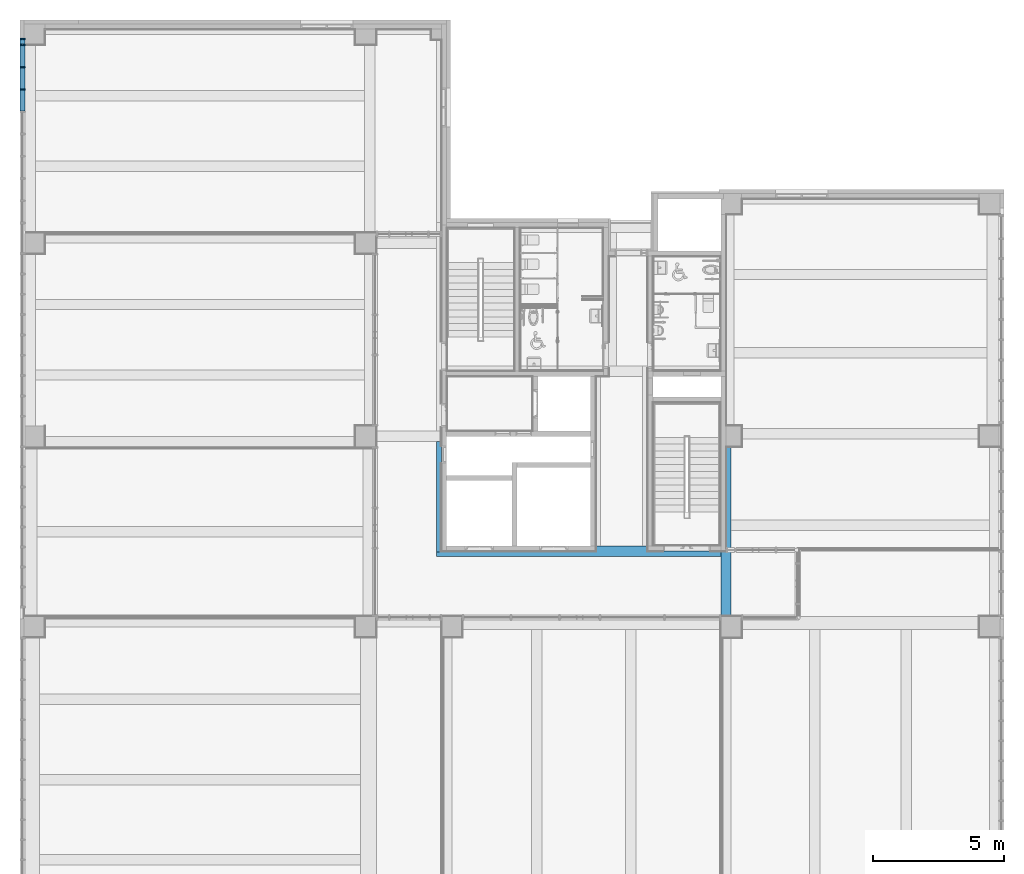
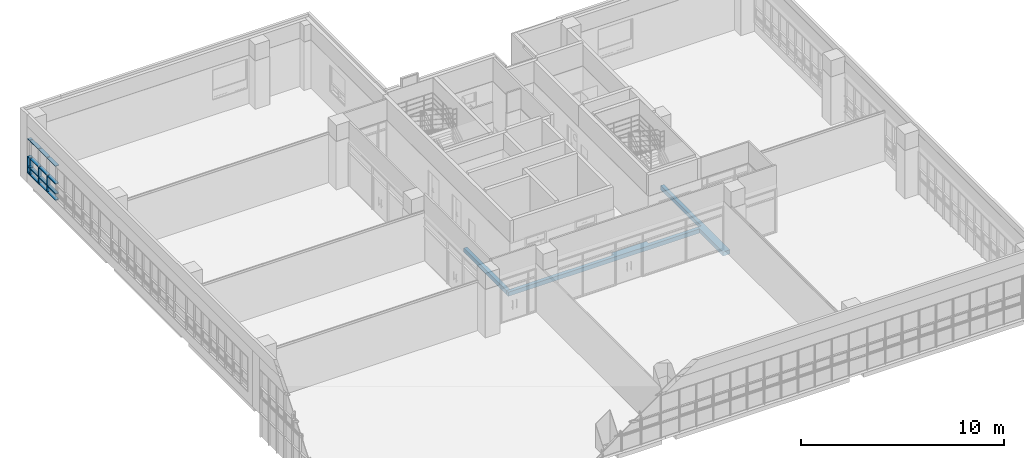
# One storey, part 23 of 81: 24 members, 3 beams, 1 element without a shape of its own.
"""IFC2X3 building model written with IfcOpenShell, lengths in millimetres."""

from ifc_helpers import new_model, entity, si_unit, converted_unit, derived_unit, direction, frame, origin, origin_2d_with_axis, place, context, subcontext, project, spatial, rectangle, extrude, faceted_brep, source, transform, mapped, material, material_list, type_object, type_shapes, element, aggregate, save


model = new_model("IFC2X3")

# Units and contexts
model_context = context("Model", 3, precision=0.01, world=origin(), true_north=direction((6.123031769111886e-17, 1.0)))
body_context = subcontext(model_context, "Body", "Model", "MODEL_VIEW")
ifc_project = project(units=[si_unit("LENGTHUNIT", "METRE", prefix="MILLI"), si_unit("AREAUNIT", "SQUARE_METRE"), si_unit("VOLUMEUNIT", "CUBIC_METRE"), converted_unit("PLANEANGLEUNIT", "DEGREE", entity("IfcRatioMeasure", 0.017453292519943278), si_unit("PLANEANGLEUNIT", "RADIAN"), dimensions=[0, 0, 0, 0, 0, 0, 0]), si_unit("MASSUNIT", "GRAM", prefix="KILO"), derived_unit("MASSDENSITYUNIT", [(si_unit("MASSUNIT", "GRAM", prefix="KILO"), 1), (si_unit("LENGTHUNIT", "METRE"), -3)]), derived_unit("MOMENTOFINERTIAUNIT", [(si_unit("LENGTHUNIT", "METRE"), 4)]), si_unit("TIMEUNIT", "SECOND"), si_unit("FREQUENCYUNIT", "HERTZ"), si_unit("THERMODYNAMICTEMPERATUREUNIT", "DEGREE_CELSIUS"), derived_unit("THERMALTRANSMITTANCEUNIT", [(si_unit("MASSUNIT", "GRAM", prefix="KILO"), 1), (si_unit("THERMODYNAMICTEMPERATUREUNIT", "KELVIN"), -1), (si_unit("TIMEUNIT", "SECOND"), -3)]), derived_unit("VOLUMETRICFLOWRATEUNIT", [(si_unit("LENGTHUNIT", "METRE"), 3), (si_unit("TIMEUNIT", "SECOND"), -1)]), derived_unit("MASSFLOWRATEUNIT", [(si_unit("MASSUNIT", "GRAM", prefix="KILO"), 1), (si_unit("TIMEUNIT", "SECOND"), -1)]), derived_unit("ROTATIONALFREQUENCYUNIT", [(si_unit("TIMEUNIT", "SECOND"), -1)]), si_unit("ELECTRICCURRENTUNIT", "AMPERE"), si_unit("ELECTRICVOLTAGEUNIT", "VOLT"), si_unit("POWERUNIT", "WATT"), si_unit("FORCEUNIT", "NEWTON", prefix="KILO"), si_unit("ILLUMINANCEUNIT", "LUX"), si_unit("LUMINOUSFLUXUNIT", "LUMEN"), si_unit("LUMINOUSINTENSITYUNIT", "CANDELA"), derived_unit("USERDEFINED", [(si_unit("MASSUNIT", "GRAM", prefix="KILO"), -1), (si_unit("LENGTHUNIT", "METRE"), -2), (si_unit("TIMEUNIT", "SECOND"), 3), (si_unit("LUMINOUSFLUXUNIT", "LUMEN"), 1)]), derived_unit("SOUNDPOWERUNIT", [(si_unit("MASSUNIT", "GRAM", prefix="KILO"), 1), (si_unit("LENGTHUNIT", "METRE"), 2), (si_unit("TIMEUNIT", "SECOND"), -3)]), derived_unit("SOUNDPRESSUREUNIT", [(si_unit("MASSUNIT", "GRAM", prefix="KILO"), 1), (si_unit("LENGTHUNIT", "METRE"), -1), (si_unit("TIMEUNIT", "SECOND"), -2)]), derived_unit("LINEARVELOCITYUNIT", [(si_unit("LENGTHUNIT", "METRE"), 1), (si_unit("TIMEUNIT", "SECOND"), -1)]), si_unit("PRESSUREUNIT", "PASCAL"), derived_unit("USERDEFINED", [(si_unit("LENGTHUNIT", "METRE"), -2), (si_unit("MASSUNIT", "GRAM", prefix="KILO"), 1), (si_unit("TIMEUNIT", "SECOND"), -2)]), derived_unit("LINEARFORCEUNIT", [(si_unit("MASSUNIT", "GRAM", prefix="KILO"), 1), (si_unit("LENGTHUNIT", "METRE"), 1), (si_unit("TIMEUNIT", "SECOND"), -2), (si_unit("LENGTHUNIT", "METRE"), -1)]), derived_unit("PLANARFORCEUNIT", [(si_unit("MASSUNIT", "GRAM", prefix="KILO"), 1), (si_unit("LENGTHUNIT", "METRE"), 1), (si_unit("TIMEUNIT", "SECOND"), -2), (si_unit("LENGTHUNIT", "METRE"), -2)])], contexts=[model_context])

# Site, building, storey
site_placement = place(None, frame((-14167.972527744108, -657.2125860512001, 0.0)))
site = spatial("IfcSite", under=ifc_project, at=site_placement, Name="Default", CompositionType="ELEMENT")
building_placement = place(site_placement, origin())
building = spatial("IfcBuilding", under=site, at=building_placement, Name="Sample Building", CompositionType="ELEMENT")
storey_placement = place(building_placement, frame((0.0, 0.0, 13400.0)))
storey = spatial("IfcBuildingStorey", under=building, at=storey_placement, Name="지상 4층", CompositionType="ELEMENT", Elevation=13400.00000000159)

# Curtain wall, members
curtain_wall_type = type_object("IfcCurtainWallType", Name="커튼월:CW112-스테인리스 스틸 커튼월", PredefinedType="NOTDEFINED")
curtain_wall_placement = place(storey_placement, frame((0.0, 0.0, -13400.0)))
curtain_wall = element("IfcCurtainWall", 1, at=curtain_wall_placement, inside=storey, type_object=curtain_wall_type, Name="커튼월:CW112-스테인리스 스틸 커튼월", ObjectType="커튼월:CW112-스테인리스 스틸 커튼월")
ifc_material_1 = material(Name="<Unnamed>")
member_type_1 = type_object("IfcMemberType", Name="직사각형 멀리언:CW200-직사각형 멀리언 50x200mm", PredefinedType="MULLION", material=ifc_material_1)
shared_shape_1 = source(origin(), body_context, "Body", "SweptSolid", [
    extrude(rectangle(XDim=200.0, YDim=50.0, at=origin_2d_with_axis()), frame((-25.0, 0.0, -600.0), z_axis=(0.0, 0.0, 1.0), x_axis=(0.0, -1.0, 0.0)), (0.0, 0.0, 1.0), 600.0),
])
type_shapes(member_type_1, [shared_shape_1])
member_1_placement = place(curtain_wall_placement, frame((14018.570555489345, 35207.21229514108, 15000.0), z_axis=(0.0, 0.0, 1.0), x_axis=(0.0, 1.0, 0.0)))
member_1 = element("IfcMember", 2, at=member_1_placement, type_object=member_type_1, material=ifc_material_1, Name="직사각형 멀리언:CW200-직사각형 멀리언 50x200mm", ObjectType="직사각형 멀리언:CW200-직사각형 멀리언 50x200mm", context=body_context, shape_type="MappedRepresentation", body=[
    mapped(shared_shape_1, transform((0.0, 0.0, 0.0), scale=1.0)),
])
member_type_2 = type_object("IfcMemberType", Name="직사각형 멀리언:CW200-직사각형 멀리언 50x200mm", PredefinedType="MULLION", material=ifc_material_1)
shared_shape_2 = source(origin(), body_context, "Body", "SweptSolid", [
    extrude(rectangle(XDim=200.0, YDim=50.0, at=origin_2d_with_axis()), frame((0.0, 0.0, -600.0), z_axis=(0.0, 0.0, 1.0), x_axis=(0.0, -1.0, 0.0)), (0.0, 0.0, 1.0), 600.0),
])
type_shapes(member_type_2, [shared_shape_2])
member_2_placement = place(curtain_wall_placement, frame((14018.570555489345, 34953.81770709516, 14400.0), z_axis=(0.0, 0.0, -1.0), x_axis=(0.0, -1.0, 0.0)))
member_2 = element("IfcMember", 3, at=member_2_placement, type_object=member_type_2, material=ifc_material_1, Name="직사각형 멀리언:CW200-직사각형 멀리언 50x200mm", ObjectType="직사각형 멀리언:CW200-직사각형 멀리언 50x200mm", context=body_context, shape_type="MappedRepresentation", body=[
    mapped(shared_shape_2, transform((0.0, 0.0, 0.0), scale=1.0)),
])
member_3_placement = place(curtain_wall_placement, frame((14018.570555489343, 34100.31770709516, 14400.0), z_axis=(0.0, 0.0, -1.0), x_axis=(0.0, -1.0, 0.0)))
member_3 = element("IfcMember", 4, at=member_3_placement, type_object=member_type_2, material=ifc_material_1, Name="직사각형 멀리언:CW200-직사각형 멀리언 50x200mm", ObjectType="직사각형 멀리언:CW200-직사각형 멀리언 50x200mm", context=body_context, shape_type="MappedRepresentation", body=[
    mapped(shared_shape_2, transform((0.0, 0.0, 0.0), scale=1.0)),
])
member_4_placement = place(curtain_wall_placement, frame((14018.570555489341, 33246.81770709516, 14400.0), z_axis=(0.0, 0.0, -1.0), x_axis=(0.0, -1.0, 0.0)))
member_4 = element("IfcMember", 5, at=member_4_placement, type_object=member_type_2, material=ifc_material_1, Name="직사각형 멀리언:CW200-직사각형 멀리언 50x200mm", ObjectType="직사각형 멀리언:CW200-직사각형 멀리언 50x200mm", context=body_context, shape_type="MappedRepresentation", body=[
    mapped(shared_shape_2, transform((0.0, 0.0, 0.0), scale=1.0)),
])
member_type_3 = type_object("IfcMemberType", Name="직사각형 멀리언:CW200-직사각형 멀리언 50x200mm", PredefinedType="MULLION", material=ifc_material_1)
shared_shape_3 = source(origin(), body_context, "Body", "SweptSolid", [
    extrude(rectangle(XDim=200.0, YDim=50.0, at=origin_2d_with_axis()), frame((-25.0, 0.0, -178.3945880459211), z_axis=(0.0, 0.0, 1.0), x_axis=(0.0, -1.0, 0.0)), (0.0, 0.0, 1.0), 178.39458804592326),
])
type_shapes(member_type_3, [shared_shape_3])
member_5_placement = place(curtain_wall_placement, frame((14018.570555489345, 35157.21229514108, 14000.0), z_axis=(0.0, 1.0, 0.0), x_axis=(0.0, 0.0, -1.0)))
member_5 = element("IfcMember", 6, at=member_5_placement, type_object=member_type_3, material=ifc_material_1, Name="직사각형 멀리언:CW200-직사각형 멀리언 50x200mm", ObjectType="직사각형 멀리언:CW200-직사각형 멀리언 50x200mm", context=body_context, shape_type="MappedRepresentation", body=[
    mapped(shared_shape_3, transform((0.0, 0.0, 0.0), scale=1.0)),
])
member_type_4 = type_object("IfcMemberType", Name="직사각형 멀리언:CW200-직사각형 멀리언 50x200mm", PredefinedType="MULLION", material=ifc_material_1)
shared_shape_4 = source(origin(), body_context, "Body", "SweptSolid", [
    extrude(rectangle(XDim=200.0, YDim=50.0, at=origin_2d_with_axis()), frame((0.0, 0.0, -178.39458804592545), z_axis=(0.0, 0.0, 1.0), x_axis=(0.0, -1.0, 0.0)), (0.0, 0.0, 1.0), 178.39458804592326),
])
type_shapes(member_type_4, [shared_shape_4])
member_6_placement = place(curtain_wall_placement, frame((14018.570555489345, 34978.81770709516, 15000.0), z_axis=(0.0, -1.0, 0.0), x_axis=(0.0, 0.0, 1.0)))
member_6 = element("IfcMember", 7, at=member_6_placement, type_object=member_type_4, material=ifc_material_1, Name="직사각형 멀리언:CW200-직사각형 멀리언 50x200mm", ObjectType="직사각형 멀리언:CW200-직사각형 멀리언 50x200mm", context=body_context, shape_type="MappedRepresentation", body=[
    mapped(shared_shape_4, transform((0.0, 0.0, 0.0), scale=1.0)),
])
member_7_placement = place(curtain_wall_placement, frame((14018.570555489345, 34978.81770709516, 14400.0), z_axis=(0.0, -1.0, 0.0), x_axis=(0.0, 0.0, 1.0)))
member_7 = element("IfcMember", 8, at=member_7_placement, type_object=member_type_4, material=ifc_material_1, Name="직사각형 멀리언:CW200-직사각형 멀리언 50x200mm", ObjectType="직사각형 멀리언:CW200-직사각형 멀리언 50x200mm", context=body_context, shape_type="MappedRepresentation", body=[
    mapped(shared_shape_4, transform((0.0, 0.0, 0.0), scale=1.0)),
])
member_type_5 = type_object("IfcMemberType", Name="직사각형 멀리언:CW200-직사각형 멀리언 50x200mm", PredefinedType="MULLION", material=ifc_material_1)
shared_shape_5 = source(origin(), body_context, "Body", "SweptSolid", [
    extrude(rectangle(XDim=200.0, YDim=50.0, at=origin_2d_with_axis()), frame((-25.0, 0.0, -400.0), z_axis=(0.0, 0.0, 1.0), x_axis=(0.0, -1.0, 0.0)), (0.0, 0.0, 1.0), 399.9999999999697),
])
type_shapes(member_type_5, [shared_shape_5])
member_8_placement = place(curtain_wall_placement, frame((14018.570555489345, 35207.21229514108, 14400.0), z_axis=(0.0, 0.0, 1.0), x_axis=(0.0, 1.0, 0.0)))
member_8 = element("IfcMember", 9, at=member_8_placement, type_object=member_type_5, material=ifc_material_1, Name="직사각형 멀리언:CW200-직사각형 멀리언 50x200mm", ObjectType="직사각형 멀리언:CW200-직사각형 멀리언 50x200mm", context=body_context, shape_type="MappedRepresentation", body=[
    mapped(shared_shape_5, transform((0.0, 0.0, 0.0), scale=1.0)),
])
member_type_6 = type_object("IfcMemberType", Name="직사각형 멀리언:CW200-직사각형 멀리언 50x200mm", PredefinedType="MULLION", material=ifc_material_1)
shared_shape_6 = source(origin(), body_context, "Body", "SweptSolid", [
    extrude(rectangle(XDim=200.0, YDim=50.0, at=origin_2d_with_axis()), frame((-25.0, 0.0, -178.39458804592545), z_axis=(0.0, 0.0, 1.0), x_axis=(0.0, -1.0, 0.0)), (0.0, 0.0, 1.0), 178.39458804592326),
])
type_shapes(member_type_6, [shared_shape_6])
member_9_placement = place(curtain_wall_placement, frame((14018.570555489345, 34978.81770709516, 16100.0), z_axis=(0.0, -1.0, 0.0), x_axis=(0.0, 0.0, 1.0)))
member_9 = element("IfcMember", 10, at=member_9_placement, type_object=member_type_6, material=ifc_material_1, Name="직사각형 멀리언:CW200-직사각형 멀리언 50x200mm", ObjectType="직사각형 멀리언:CW200-직사각형 멀리언 50x200mm", context=body_context, shape_type="MappedRepresentation", body=[
    mapped(shared_shape_6, transform((0.0, 0.0, 0.0), scale=1.0)),
])
member_type_7 = type_object("IfcMemberType", Name="직사각형 멀리언:CW200-직사각형 멀리언 50x200mm", PredefinedType="MULLION", material=ifc_material_1)
shared_shape_7 = source(origin(), body_context, "Body", "SweptSolid", [
    extrude(rectangle(XDim=200.0, YDim=50.0, at=origin_2d_with_axis()), frame((-25.0, 0.0, -803.5000000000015), z_axis=(0.0, 0.0, 1.0), x_axis=(0.0, -1.0, 0.0)), (0.0, 0.0, 1.0), 803.4999999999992),
])
type_shapes(member_type_7, [shared_shape_7])
member_10_placement = place(curtain_wall_placement, frame((14018.570555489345, 34928.81770709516, 14000.0), z_axis=(0.0, 1.0, 0.0), x_axis=(0.0, 0.0, -1.0)))
member_10 = element("IfcMember", 11, at=member_10_placement, type_object=member_type_7, material=ifc_material_1, Name="직사각형 멀리언:CW200-직사각형 멀리언 50x200mm", ObjectType="직사각형 멀리언:CW200-직사각형 멀리언 50x200mm", context=body_context, shape_type="MappedRepresentation", body=[
    mapped(shared_shape_7, transform((0.0, 0.0, 0.0), scale=1.0)),
])
member_11_placement = place(curtain_wall_placement, frame((14018.570555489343, 34075.31770709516, 14000.0), z_axis=(0.0, 1.0, 0.0), x_axis=(0.0, 0.0, -1.0)))
member_11 = element("IfcMember", 12, at=member_11_placement, type_object=member_type_7, material=ifc_material_1, Name="직사각형 멀리언:CW200-직사각형 멀리언 50x200mm", ObjectType="직사각형 멀리언:CW200-직사각형 멀리언 50x200mm", context=body_context, shape_type="MappedRepresentation", body=[
    mapped(shared_shape_7, transform((0.0, 0.0, 0.0), scale=1.0)),
])
member_12_placement = place(curtain_wall_placement, frame((14018.570555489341, 33221.81770709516, 14000.0), z_axis=(0.0, 1.0, 0.0), x_axis=(0.0, 0.0, -1.0)))
member_12 = element("IfcMember", 13, at=member_12_placement, type_object=member_type_7, material=ifc_material_1, Name="직사각형 멀리언:CW200-직사각형 멀리언 50x200mm", ObjectType="직사각형 멀리언:CW200-직사각형 멀리언 50x200mm", context=body_context, shape_type="MappedRepresentation", body=[
    mapped(shared_shape_7, transform((0.0, 0.0, 0.0), scale=1.0)),
])
member_type_8 = type_object("IfcMemberType", Name="직사각형 멀리언:CW200-직사각형 멀리언 50x200mm", PredefinedType="MULLION", material=ifc_material_1)
shared_shape_8 = source(origin(), body_context, "Body", "SweptSolid", [
    extrude(rectangle(XDim=200.0, YDim=50.0, at=origin_2d_with_axis()), frame((0.0, 0.0, -803.5000000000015), z_axis=(0.0, 0.0, 1.0), x_axis=(0.0, -1.0, 0.0)), (0.0, 0.0, 1.0), 803.4999999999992),
])
type_shapes(member_type_8, [shared_shape_8])
member_13_placement = place(curtain_wall_placement, frame((14018.570555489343, 34125.31770709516, 14400.0), z_axis=(0.0, -1.0, 0.0), x_axis=(0.0, 0.0, 1.0)))
member_13 = element("IfcMember", 14, at=member_13_placement, type_object=member_type_8, material=ifc_material_1, Name="직사각형 멀리언:CW200-직사각형 멀리언 50x200mm", ObjectType="직사각형 멀리언:CW200-직사각형 멀리언 50x200mm", context=body_context, shape_type="MappedRepresentation", body=[
    mapped(shared_shape_8, transform((0.0, 0.0, 0.0), scale=1.0)),
])
member_14_placement = place(curtain_wall_placement, frame((14018.570555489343, 34125.31770709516, 15000.0), z_axis=(0.0, -1.0, 0.0), x_axis=(0.0, 0.0, 1.0)))
member_14 = element("IfcMember", 15, at=member_14_placement, type_object=member_type_8, material=ifc_material_1, Name="직사각형 멀리언:CW200-직사각형 멀리언 50x200mm", ObjectType="직사각형 멀리언:CW200-직사각형 멀리언 50x200mm", context=body_context, shape_type="MappedRepresentation", body=[
    mapped(shared_shape_8, transform((0.0, 0.0, 0.0), scale=1.0)),
])
member_15_placement = place(curtain_wall_placement, frame((14018.570555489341, 33271.81770709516, 14400.0), z_axis=(0.0, -1.0, 0.0), x_axis=(0.0, 0.0, 1.0)))
member_15 = element("IfcMember", 16, at=member_15_placement, type_object=member_type_8, material=ifc_material_1, Name="직사각형 멀리언:CW200-직사각형 멀리언 50x200mm", ObjectType="직사각형 멀리언:CW200-직사각형 멀리언 50x200mm", context=body_context, shape_type="MappedRepresentation", body=[
    mapped(shared_shape_8, transform((0.0, 0.0, 0.0), scale=1.0)),
])
member_16_placement = place(curtain_wall_placement, frame((14018.570555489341, 33271.81770709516, 15000.0), z_axis=(0.0, -1.0, 0.0), x_axis=(0.0, 0.0, 1.0)))
member_16 = element("IfcMember", 17, at=member_16_placement, type_object=member_type_8, material=ifc_material_1, Name="직사각형 멀리언:CW200-직사각형 멀리언 50x200mm", ObjectType="직사각형 멀리언:CW200-직사각형 멀리언 50x200mm", context=body_context, shape_type="MappedRepresentation", body=[
    mapped(shared_shape_8, transform((0.0, 0.0, 0.0), scale=1.0)),
])
member_17_placement = place(curtain_wall_placement, frame((14018.570555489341, 32418.317707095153, 14400.0), z_axis=(0.0, -1.0, 0.0), x_axis=(0.0, 0.0, 1.0)))
member_17 = element("IfcMember", 18, at=member_17_placement, type_object=member_type_8, material=ifc_material_1, Name="직사각형 멀리언:CW200-직사각형 멀리언 50x200mm", ObjectType="직사각형 멀리언:CW200-직사각형 멀리언 50x200mm", context=body_context, shape_type="MappedRepresentation", body=[
    mapped(shared_shape_8, transform((0.0, 0.0, 0.0), scale=1.0)),
])
member_18_placement = place(curtain_wall_placement, frame((14018.570555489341, 32418.317707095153, 15000.0), z_axis=(0.0, -1.0, 0.0), x_axis=(0.0, 0.0, 1.0)))
member_18 = element("IfcMember", 19, at=member_18_placement, type_object=member_type_8, material=ifc_material_1, Name="직사각형 멀리언:CW200-직사각형 멀리언 50x200mm", ObjectType="직사각형 멀리언:CW200-직사각형 멀리언 50x200mm", context=body_context, shape_type="MappedRepresentation", body=[
    mapped(shared_shape_8, transform((0.0, 0.0, 0.0), scale=1.0)),
])
member_type_9 = type_object("IfcMemberType", Name="직사각형 멀리언:CW200-직사각형 멀리언 50x200mm", PredefinedType="MULLION", material=ifc_material_1)
shared_shape_9 = source(origin(), body_context, "Body", "SweptSolid", [
    extrude(rectangle(XDim=200.0, YDim=50.0, at=origin_2d_with_axis()), frame((0.0, 0.0, -400.0), z_axis=(0.0, 0.0, 1.0), x_axis=(0.0, -1.0, 0.0)), (0.0, 0.0, 1.0), 399.9999999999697),
])
type_shapes(member_type_9, [shared_shape_9])
member_19_placement = place(curtain_wall_placement, frame((14018.570555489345, 34953.81770709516, 14000.0), z_axis=(0.0, 0.0, -1.0), x_axis=(0.0, -1.0, 0.0)))
member_19 = element("IfcMember", 20, at=member_19_placement, type_object=member_type_9, material=ifc_material_1, Name="직사각형 멀리언:CW200-직사각형 멀리언 50x200mm", ObjectType="직사각형 멀리언:CW200-직사각형 멀리언 50x200mm", context=body_context, shape_type="MappedRepresentation", body=[
    mapped(shared_shape_9, transform((0.0, 0.0, 0.0), scale=1.0)),
])
member_20_placement = place(curtain_wall_placement, frame((14018.570555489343, 34100.31770709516, 14000.0), z_axis=(0.0, 0.0, -1.0), x_axis=(0.0, -1.0, 0.0)))
member_20 = element("IfcMember", 21, at=member_20_placement, type_object=member_type_9, material=ifc_material_1, Name="직사각형 멀리언:CW200-직사각형 멀리언 50x200mm", ObjectType="직사각형 멀리언:CW200-직사각형 멀리언 50x200mm", context=body_context, shape_type="MappedRepresentation", body=[
    mapped(shared_shape_9, transform((0.0, 0.0, 0.0), scale=1.0)),
])
member_21_placement = place(curtain_wall_placement, frame((14018.570555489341, 33246.81770709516, 14000.0), z_axis=(0.0, 0.0, -1.0), x_axis=(0.0, -1.0, 0.0)))
member_21 = element("IfcMember", 22, at=member_21_placement, type_object=member_type_9, material=ifc_material_1, Name="직사각형 멀리언:CW200-직사각형 멀리언 50x200mm", ObjectType="직사각형 멀리언:CW200-직사각형 멀리언 50x200mm", context=body_context, shape_type="MappedRepresentation", body=[
    mapped(shared_shape_9, transform((0.0, 0.0, 0.0), scale=1.0)),
])
member_type_10 = type_object("IfcMemberType", Name="직사각형 멀리언:CW200-직사각형 멀리언 50x200mm", PredefinedType="MULLION", material=ifc_material_1)
shared_shape_10 = source(origin(), body_context, "Body", "SweptSolid", [
    extrude(rectangle(XDim=200.0, YDim=50.0, at=origin_2d_with_axis()), frame((-25.0, 0.0, -803.5000000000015), z_axis=(0.0, 0.0, 1.0), x_axis=(0.0, -1.0, 0.0)), (0.0, 0.0, 1.0), 803.4999999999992),
])
type_shapes(member_type_10, [shared_shape_10])
member_22_placement = place(curtain_wall_placement, frame((14018.570555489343, 34125.31770709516, 16100.0), z_axis=(0.0, -1.0, 0.0), x_axis=(0.0, 0.0, 1.0)))
member_22 = element("IfcMember", 23, at=member_22_placement, type_object=member_type_10, material=ifc_material_1, Name="직사각형 멀리언:CW200-직사각형 멀리언 50x200mm", ObjectType="직사각형 멀리언:CW200-직사각형 멀리언 50x200mm", context=body_context, shape_type="MappedRepresentation", body=[
    mapped(shared_shape_10, transform((0.0, 0.0, 0.0), scale=1.0)),
])
member_23_placement = place(curtain_wall_placement, frame((14018.570555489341, 33271.81770709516, 16100.0), z_axis=(0.0, -1.0, 0.0), x_axis=(0.0, 0.0, 1.0)))
member_23 = element("IfcMember", 24, at=member_23_placement, type_object=member_type_10, material=ifc_material_1, Name="직사각형 멀리언:CW200-직사각형 멀리언 50x200mm", ObjectType="직사각형 멀리언:CW200-직사각형 멀리언 50x200mm", context=body_context, shape_type="MappedRepresentation", body=[
    mapped(shared_shape_10, transform((0.0, 0.0, 0.0), scale=1.0)),
])
member_24_placement = place(curtain_wall_placement, frame((14018.570555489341, 32418.317707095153, 16100.0), z_axis=(0.0, -1.0, 0.0), x_axis=(0.0, 0.0, 1.0)))
member_24 = element("IfcMember", 25, at=member_24_placement, type_object=member_type_10, material=ifc_material_1, Name="직사각형 멀리언:CW200-직사각형 멀리언 50x200mm", ObjectType="직사각형 멀리언:CW200-직사각형 멀리언 50x200mm", context=body_context, shape_type="MappedRepresentation", body=[
    mapped(shared_shape_10, transform((0.0, 0.0, 0.0), scale=1.0)),
])
aggregate(curtain_wall, [member_5, member_1, member_6, member_8, member_7, member_9, member_10, member_13, member_14, member_19, member_2, member_22, member_11, member_15, member_16, member_20, member_3, member_23, member_21, member_4, member_24, member_12, member_17, member_18])

# Beams
ifc_material_2 = material(Name="KBIMS-콘크리트")
beam_type_1 = type_object("IfcBeamType", Name="BM111-철근콘크리트구조 보:BM110-철근 콘크리트구조 보_400 x 400_2-10G4", PredefinedType="BEAM", material=ifc_material_2)
beam_1_placement = place(storey_placement, frame((40767.95514177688, 13057.212604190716, -400.0), z_axis=(0.0, 0.0, 1.0), x_axis=(0.0, 1.0, 0.0)))
element("IfcBeam", 26, at=beam_1_placement, inside=storey, type_object=beam_type_1, material=ifc_material_2, Name="BM111-철근콘크리트구조 보:BM110-철근 콘크리트구조 보_400 x 400_2-10G4", ObjectType="BM111-철근콘크리트구조 보:BM110-철근 콘크리트구조 보_400 x 400_2-10G4", context=body_context, shape_type="Brep", body=[
    faceted_brep([(1.284866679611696e-05, -400.0, 0.0), (3299.999848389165, -400.0, 0.0), (3699.999848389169, -400.0, 0.0), (6500.0, -400.0, 0.0), (6500.0, -400.0, 250.0), (3699.999848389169, -400.0, 250.0), (3299.999848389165, -400.0, 250.0), (1.284866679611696e-05, -400.0, 250.0), (0.0, 0.0, 0.0), (2300.0, 0.0, 0.0), (2504.9996373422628, 0.0, 0.0), (2504.9996373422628, -200.00865637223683, 0.0), (6500.0, -200.00865637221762, 0.0), (0.0, 0.0, 250.0), (2300.0, 0.0, 250.0), (2504.9996373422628, 0.0, 250.0), (6500.0, -200.00865637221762, 250.0), (0.0, -400.0, 250.0), (2504.9996373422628, -200.00865637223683, 250.0)], [[[0, 1, 2, 3, 4, 5, 6, 7]], [[3, 2, 1, 0, 8, 9, 10, 11, 12]], [[8, 13, 14, 15, 10, 9]], [[4, 3, 12, 16]], [[8, 0, 17, 13]], [[7, 6, 5, 4, 16, 18, 15, 14, 13]], [[11, 18, 16, 12]], [[18, 11, 10, 15]]]),
])
ifc_material_list = material_list([ifc_material_2, ifc_material_2, ifc_material_2])
beam_type_2 = type_object("IfcBeamType", Name="BM111-철근콘크리트구조 보:BM110-철근 콘크리트구조 보_400 x 400_2-10WG1", PredefinedType="BEAM", material=ifc_material_list)
beam_2_placement = place(storey_placement, frame((29867.946448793, 15357.212604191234, -400.0), z_axis=(0.0, 0.0, 1.0), x_axis=(-1.0, 0.0, 0.0)))
element("IfcBeam", 27, at=beam_2_placement, inside=storey, type_object=beam_type_2, material=ifc_material_2, Name="BM111-철근콘크리트구조 보:BM110-철근 콘크리트구조 보_400 x 400_2-10WG1", ObjectType="BM111-철근콘크리트구조 보:BM110-철근 콘크리트구조 보_400 x 400_2-10WG1", context=body_context, shape_type="Brep", body=[
    faceted_brep([(-6100.0260423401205, -200.09034288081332, 0.0), (-6100.02604234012, -400.0, 0.0), (-6300.008692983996, -400.0, 0.0), (-7900.0, -400.0, 0.0), (-8100.017349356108, -400.0, 0.0), (-8100.017349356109, -204.9996373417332, 0.0), (-10900.008692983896, -204.99963734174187, 0.0), (-10900.008692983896, 0.0, 0.0), (0.0, 0.0, 0.0), (0.0, -176.09034288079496, 0.0), (-400.0, -176.09034288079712, 0.0), (-400.0, -200.090342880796, 0.0), (-10900.008692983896, 0.0, 250.0), (0.0, 0.0, 250.0), (-10900.008692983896, -204.99963734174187, 250.0), (-8100.017349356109, -204.9996373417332, 250.0), (-8100.017349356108, -400.0, 250.0), (-7900.0, -400.0, 250.0), (-6300.008692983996, -400.0, 250.0), (-6100.02604234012, -400.0, 250.0), (-6100.0260423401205, -200.09034288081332, 250.0), (-400.0, -200.090342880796, 250.0), (-400.0, -176.09034288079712, 250.0), (0.0, -176.09034288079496, 250.0)], [[[0, 1, 2, 3, 4, 5, 6, 7, 8, 9, 10, 11]], [[7, 12, 13, 8]], [[12, 7, 6, 14]], [[13, 12, 14, 15, 16, 17, 18, 19, 20, 21, 22, 23]], [[20, 0, 11, 21]], [[1, 19, 18, 17, 16, 4, 3, 2]], [[0, 20, 19, 1]], [[5, 15, 14, 6]], [[15, 5, 4, 16]], [[8, 13, 23, 9]], [[10, 22, 21, 11]], [[22, 10, 9, 23]]]),
])
beam_3_placement = place(storey_placement, frame((29867.946448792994, 15533.302947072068, -400.0), z_axis=(0.0, 0.0, 1.0), x_axis=(0.0, 1.0, 0.0)))
element("IfcBeam", 28, at=beam_3_placement, inside=storey, type_object=beam_type_2, material=ifc_material_2, Name="BM111-철근콘크리트구조 보:BM110-철근 콘크리트구조 보_400 x 400_2-10WG1", ObjectType="BM111-철근콘크리트구조 보:BM110-철근 콘크리트구조 보_400 x 400_2-10WG1", context=body_context, shape_type="Brep", body=[
    faceted_brep([(0.0, -400.0, 250.0), (0.0, -400.0, 0.0), (24.0, -400.0, 0.0), (24.0, -400.0, 250.0), (0.0, 0.0, 0.0), (4223.909669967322, 0.0, 0.0), (4223.909669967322, -200.01731274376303, 0.0), (24.0, -200.01731274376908, 0.0), (0.0, 0.0, 250.0), (4223.909669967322, 0.0, 250.0), (4223.909669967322, -200.01731274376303, 250.0), (24.0, -200.01731274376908, 250.0)], [[[0, 1, 2, 3]], [[1, 4, 5, 6, 7, 2]], [[8, 9, 5, 4]], [[5, 9, 10, 6]], [[9, 8, 0, 3, 11, 10]], [[11, 7, 6, 10]], [[4, 1, 0, 8]], [[7, 11, 3, 2]]]),
])

save(model, "model.ifc")
